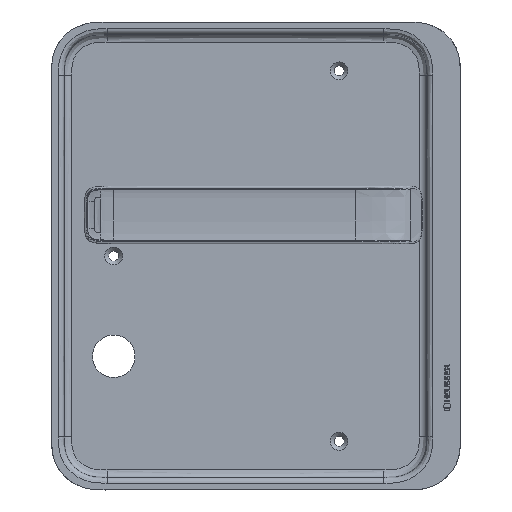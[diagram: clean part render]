
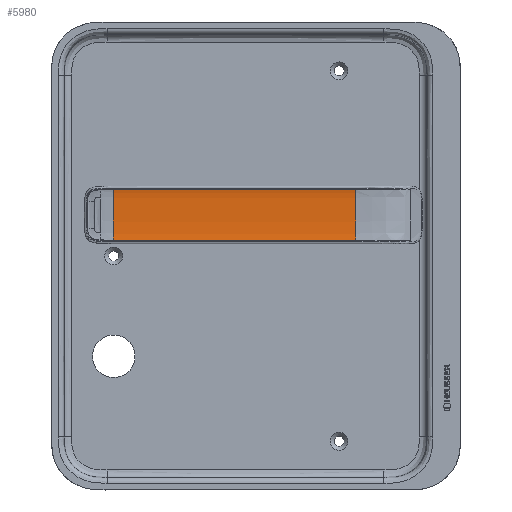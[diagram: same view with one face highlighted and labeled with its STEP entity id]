
A CAD part, top view. The second image highlights one B-rep face of the part: STEP entity #5980.
In plain terms, the highlighted free-form (B-spline) face has degree [1, 5] with [2, 6] control points.
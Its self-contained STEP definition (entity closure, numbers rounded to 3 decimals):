
#164=B_SPLINE_SURFACE_WITH_KNOTS('',1,5,((#17971,#17972,#17973,#17974,#17975,
#17976),(#17977,#17978,#17979,#17980,#17981,#17982)),.UNSPECIFIED.,.F.,
 .F.,.F.,(2,2),(6,6),(0.,1.),(0.,1.),.UNSPECIFIED.);
#417=B_SPLINE_CURVE_WITH_KNOTS('',3,(#14554,#14555,#14556,#14557,#14558,
#14559,#14560,#14561,#14562,#14563,#14564,#14565,#14566,#14567,#14568,#14569,
#14570,#14571,#14572,#14573,#14574,#14575,#14576,#14577,#14578,#14579,#14580,
#14581),.UNSPECIFIED.,.F.,.F.,(4,3,3,3,3,3,3,3,3,4),(3.015,3.808,
4.601,6.186,7.772,9.358,10.943,
12.529,14.115,15.703),.UNSPECIFIED.);
#423=B_SPLINE_CURVE_WITH_KNOTS('',5,(#14656,#14657,#14658,#14659,#14660,
#14661,#14662,#14663,#14664,#14665,#14666,#14667,#14668,#14669,#14670),
 .UNSPECIFIED.,.F.,.F.,(6,1,1,1,1,1,1,1,1,1,6),(20.644,20.647,
22.233,23.819,25.404,26.99,28.576,
30.161,31.747,32.54,33.333),
 .UNSPECIFIED.);
#478=B_SPLINE_CURVE_WITH_KNOTS('',5,(#17321,#17322,#17323,#17324,#17325,
#17326),.UNSPECIFIED.,.F.,.F.,(6,6),(0.014,0.986),
 .UNSPECIFIED.);
#495=B_SPLINE_CURVE_WITH_KNOTS('',5,(#17983,#17984,#17985,#17986,#17987,
#17988),.UNSPECIFIED.,.F.,.F.,(6,6),(0.014,0.986),
 .UNSPECIFIED.);
#1747=FACE_OUTER_BOUND('',#2150,.T.);
#2150=EDGE_LOOP('',(#5145,#5146,#5147,#5148));
#2709=VERTEX_POINT('',#14506);
#2710=VERTEX_POINT('',#14553);
#2715=VERTEX_POINT('',#14640);
#2716=VERTEX_POINT('',#14655);
#3466=EDGE_CURVE('',#2709,#2710,#417,.T.);
#3472=EDGE_CURVE('',#2715,#2716,#423,.T.);
#3542=EDGE_CURVE('',#2716,#2709,#478,.T.);
#3581=EDGE_CURVE('',#2715,#2710,#495,.T.);
#5145=ORIENTED_EDGE('',*,*,#3542,.F.);
#5146=ORIENTED_EDGE('',*,*,#3472,.F.);
#5147=ORIENTED_EDGE('',*,*,#3581,.T.);
#5148=ORIENTED_EDGE('',*,*,#3466,.F.);
#5980=ADVANCED_FACE('',(#1747),#164,.T.);
#14506=CARTESIAN_POINT('',(62.397,21.855,14.439));
#14553=CARTESIAN_POINT('',(-64.454,21.855,14.44));
#14554=CARTESIAN_POINT('Ctrl Pts',(62.397,21.855,14.439));
#14555=CARTESIAN_POINT('Ctrl Pts',(59.754,21.855,14.439));
#14556=CARTESIAN_POINT('Ctrl Pts',(57.111,21.855,14.439));
#14557=CARTESIAN_POINT('Ctrl Pts',(54.468,21.855,14.439));
#14558=CARTESIAN_POINT('Ctrl Pts',(51.826,21.855,14.439));
#14559=CARTESIAN_POINT('Ctrl Pts',(49.184,21.855,14.439));
#14560=CARTESIAN_POINT('Ctrl Pts',(46.541,21.855,14.439));
#14561=CARTESIAN_POINT('Ctrl Pts',(41.256,21.855,14.439));
#14562=CARTESIAN_POINT('Ctrl Pts',(35.969,21.855,14.439));
#14563=CARTESIAN_POINT('Ctrl Pts',(30.683,21.855,14.439));
#14564=CARTESIAN_POINT('Ctrl Pts',(25.397,21.855,14.439));
#14565=CARTESIAN_POINT('Ctrl Pts',(20.113,21.855,14.439));
#14566=CARTESIAN_POINT('Ctrl Pts',(14.828,21.855,14.439));
#14567=CARTESIAN_POINT('Ctrl Pts',(9.544,21.855,14.439));
#14568=CARTESIAN_POINT('Ctrl Pts',(4.259,21.855,14.439));
#14569=CARTESIAN_POINT('Ctrl Pts',(-1.027,21.855,14.439));
#14570=CARTESIAN_POINT('Ctrl Pts',(-6.314,21.855,14.439));
#14571=CARTESIAN_POINT('Ctrl Pts',(-11.601,21.855,14.44));
#14572=CARTESIAN_POINT('Ctrl Pts',(-16.887,21.855,14.44));
#14573=CARTESIAN_POINT('Ctrl Pts',(-22.173,21.855,14.44));
#14574=CARTESIAN_POINT('Ctrl Pts',(-27.456,21.855,14.44));
#14575=CARTESIAN_POINT('Ctrl Pts',(-32.739,21.855,14.44));
#14576=CARTESIAN_POINT('Ctrl Pts',(-38.022,21.855,14.44));
#14577=CARTESIAN_POINT('Ctrl Pts',(-43.308,21.855,14.44));
#14578=CARTESIAN_POINT('Ctrl Pts',(-48.599,21.855,14.44));
#14579=CARTESIAN_POINT('Ctrl Pts',(-53.901,21.855,14.44));
#14580=CARTESIAN_POINT('Ctrl Pts',(-59.215,21.854,14.44));
#14581=CARTESIAN_POINT('Ctrl Pts',(-64.454,21.855,14.44));
#14640=CARTESIAN_POINT('',(-64.463,48.367,14.44));
#14655=CARTESIAN_POINT('',(62.397,48.367,14.439));
#14656=CARTESIAN_POINT('Ctrl Pts',(-64.463,48.367,14.44));
#14657=CARTESIAN_POINT('Ctrl Pts',(-64.455,48.367,14.44));
#14658=CARTESIAN_POINT('Ctrl Pts',(-61.31,48.368,14.44));
#14659=CARTESIAN_POINT('Ctrl Pts',(-54.974,48.367,14.44));
#14660=CARTESIAN_POINT('Ctrl Pts',(-45.42,48.368,14.44));
#14661=CARTESIAN_POINT('Ctrl Pts',(-32.741,48.367,14.44));
#14662=CARTESIAN_POINT('Ctrl Pts',(-16.891,48.367,14.439));
#14663=CARTESIAN_POINT('Ctrl Pts',(-1.024,48.367,14.44));
#14664=CARTESIAN_POINT('Ctrl Pts',(14.829,48.367,14.439));
#14665=CARTESIAN_POINT('Ctrl Pts',(29.096,48.367,14.44));
#14666=CARTESIAN_POINT('Ctrl Pts',(41.786,48.367,14.439));
#14667=CARTESIAN_POINT('Ctrl Pts',(51.299,48.367,14.44));
#14668=CARTESIAN_POINT('Ctrl Pts',(57.64,48.367,14.439));
#14669=CARTESIAN_POINT('Ctrl Pts',(60.811,48.367,14.44));
#14670=CARTESIAN_POINT('Ctrl Pts',(62.397,48.367,14.439));
#17321=CARTESIAN_POINT('Ctrl Pts',(62.397,48.367,14.439));
#17322=CARTESIAN_POINT('Ctrl Pts',(62.397,46.219,13.823));
#17323=CARTESIAN_POINT('Ctrl Pts',(62.397,39.34,13.515));
#17324=CARTESIAN_POINT('Ctrl Pts',(62.397,30.883,13.515));
#17325=CARTESIAN_POINT('Ctrl Pts',(62.397,24.003,13.823));
#17326=CARTESIAN_POINT('Ctrl Pts',(62.397,21.855,14.439));
#17971=CARTESIAN_POINT('Ctrl Pts',(62.397,48.511,14.484));
#17972=CARTESIAN_POINT('Ctrl Pts',(62.397,46.584,13.832));
#17973=CARTESIAN_POINT('Ctrl Pts',(62.397,39.508,13.506));
#17974=CARTESIAN_POINT('Ctrl Pts',(62.397,30.715,13.506));
#17975=CARTESIAN_POINT('Ctrl Pts',(62.397,23.638,13.832));
#17976=CARTESIAN_POINT('Ctrl Pts',(62.397,21.711,14.484));
#17977=CARTESIAN_POINT('Ctrl Pts',(-64.471,48.511,14.484));
#17978=CARTESIAN_POINT('Ctrl Pts',(-64.473,46.585,13.832));
#17979=CARTESIAN_POINT('Ctrl Pts',(-64.474,39.508,13.506));
#17980=CARTESIAN_POINT('Ctrl Pts',(-64.474,30.715,13.506));
#17981=CARTESIAN_POINT('Ctrl Pts',(-64.473,23.638,13.832));
#17982=CARTESIAN_POINT('Ctrl Pts',(-64.471,21.711,14.484));
#17983=CARTESIAN_POINT('Ctrl Pts',(-64.454,48.367,14.44));
#17984=CARTESIAN_POINT('Ctrl Pts',(-64.456,46.218,13.823));
#17985=CARTESIAN_POINT('Ctrl Pts',(-64.457,39.339,13.515));
#17986=CARTESIAN_POINT('Ctrl Pts',(-64.457,30.883,13.515));
#17987=CARTESIAN_POINT('Ctrl Pts',(-64.456,24.004,13.823));
#17988=CARTESIAN_POINT('Ctrl Pts',(-64.454,21.855,14.44));
